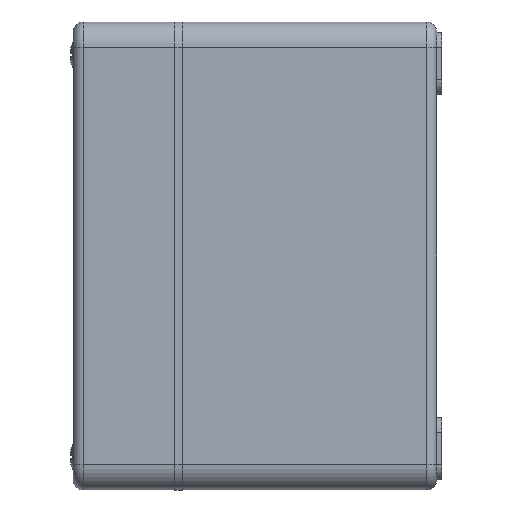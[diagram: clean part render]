
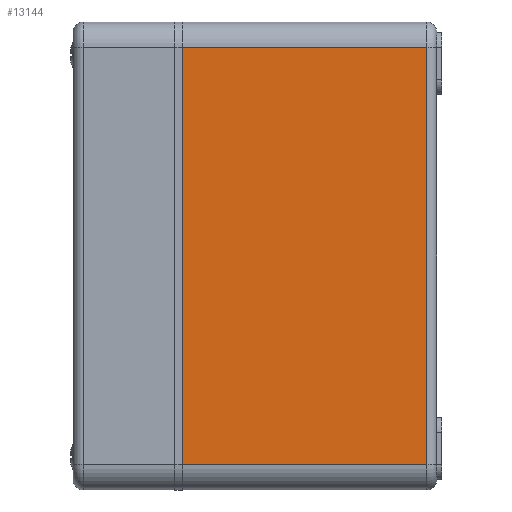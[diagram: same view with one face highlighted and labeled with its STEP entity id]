
A CAD part, left-side view. The second image highlights one B-rep face of the part: STEP entity #13144.
In plain terms, the highlighted planar face has unit normal (-1, 0, 0).
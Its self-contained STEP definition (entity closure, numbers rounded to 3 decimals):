
#471 = DIRECTION ( 'NONE',  ( 0., 0., 1. ) ) ;
#1160 = CARTESIAN_POINT ( 'NONE',  ( -76., -50., -41. ) ) ;
#2573 = DIRECTION ( 'NONE',  ( 0., 0., 1. ) ) ;
#2845 = ORIENTED_EDGE ( 'NONE', *, *, #6854, .T. ) ;
#2960 = CARTESIAN_POINT ( 'NONE',  ( -76., -48., 41. ) ) ;
#3345 = EDGE_CURVE ( 'NONE', #11155, #15775, #8338, .T. ) ;
#3669 = VECTOR ( 'NONE', #2573, 1000. ) ;
#4012 = VERTEX_POINT ( 'NONE', #10534 ) ;
#4276 = ORIENTED_EDGE ( 'NONE', *, *, #3345, .T. ) ;
#6295 = AXIS2_PLACEMENT_3D ( 'NONE', #16063, #12042, #18355 ) ;
#6854 = EDGE_CURVE ( 'NONE', #10729, #11155, #17463, .T. ) ;
#7622 = PLANE ( 'NONE',  #6295 ) ;
#7659 = VECTOR ( 'NONE', #471, 1000. ) ;
#8330 = LINE ( 'NONE', #1160, #13922 ) ;
#8338 = LINE ( 'NONE', #10871, #15902 ) ;
#9584 = ORIENTED_EDGE ( 'NONE', *, *, #19013, .F. ) ;
#10534 = CARTESIAN_POINT ( 'NONE',  ( -76., 0., -41. ) ) ;
#10729 = VERTEX_POINT ( 'NONE', #14087 ) ;
#10871 = CARTESIAN_POINT ( 'NONE',  ( -76., -50., 41. ) ) ;
#11155 = VERTEX_POINT ( 'NONE', #2960 ) ;
#11690 = ORIENTED_EDGE ( 'NONE', *, *, #19871, .F. ) ;
#12042 = DIRECTION ( 'NONE',  ( -1., 0., 0. ) ) ;
#12615 = LINE ( 'NONE', #19190, #7659 ) ;
#13144 = ADVANCED_FACE ( 'NONE', ( #17301 ), #7622, .T. ) ;
#13922 = VECTOR ( 'NONE', #15832, 1000. ) ;
#14087 = CARTESIAN_POINT ( 'NONE',  ( -76., -48., -41. ) ) ;
#15775 = VERTEX_POINT ( 'NONE', #18625 ) ;
#15832 = DIRECTION ( 'NONE',  ( 0., 1., 0. ) ) ;
#15902 = VECTOR ( 'NONE', #19290, 1000. ) ;
#16063 = CARTESIAN_POINT ( 'NONE',  ( -76., -50., -41. ) ) ;
#17301 = FACE_OUTER_BOUND ( 'NONE', #25771, .T. ) ;
#17463 = LINE ( 'NONE', #19465, #3669 ) ;
#18355 = DIRECTION ( 'NONE',  ( 0., 0., 1. ) ) ;
#18625 = CARTESIAN_POINT ( 'NONE',  ( -76., 0., 41. ) ) ;
#19013 = EDGE_CURVE ( 'NONE', #4012, #15775, #12615, .T. ) ;
#19190 = CARTESIAN_POINT ( 'NONE',  ( -76., 0., -41. ) ) ;
#19290 = DIRECTION ( 'NONE',  ( 0., 1., 0. ) ) ;
#19465 = CARTESIAN_POINT ( 'NONE',  ( -76., -48., 41. ) ) ;
#19871 = EDGE_CURVE ( 'NONE', #10729, #4012, #8330, .T. ) ;
#25771 = EDGE_LOOP ( 'NONE', ( #11690, #2845, #4276, #9584 ) ) ;
